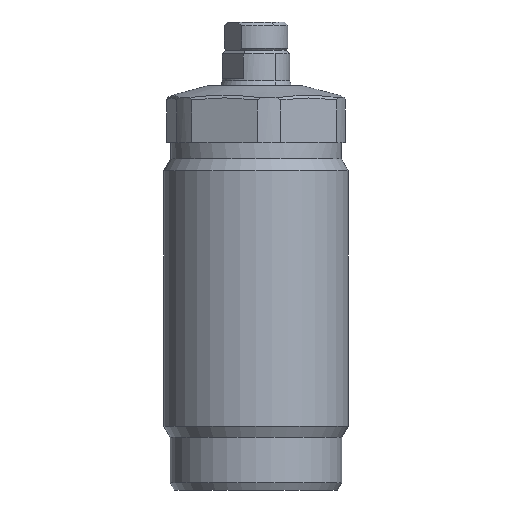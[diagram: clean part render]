
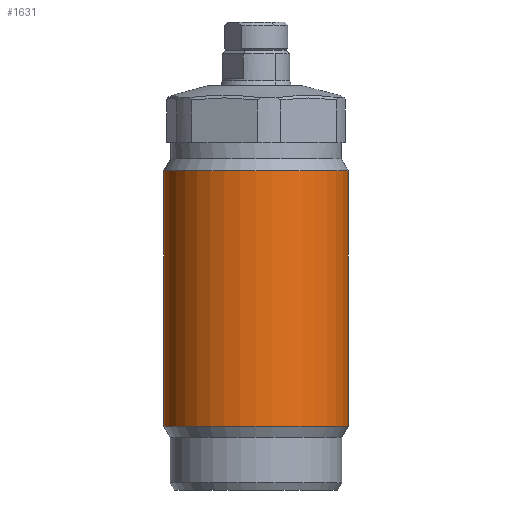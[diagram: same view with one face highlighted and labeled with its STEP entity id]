
A CAD part, front view. The second image highlights one B-rep face of the part: STEP entity #1631.
In plain terms, the highlighted cylindrical face has radius 13 mm (diameter 26 mm), a partial arc.
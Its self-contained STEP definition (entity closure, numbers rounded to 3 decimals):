
#168 = DIRECTION ( 'NONE',  ( 0., 0., -1. ) ) ;
#185 = AXIS2_PLACEMENT_3D ( 'NONE', #3106, #945, #3163 ) ;
#193 = EDGE_CURVE ( 'NONE', #2678, #2005, #3165, .T. ) ;
#224 = CARTESIAN_POINT ( 'NONE',  ( 13., 0., 9. ) ) ;
#267 = EDGE_CURVE ( 'NONE', #2005, #521, #2025, .T. ) ;
#277 = AXIS2_PLACEMENT_3D ( 'NONE', #889, #2826, #2538 ) ;
#521 = VERTEX_POINT ( 'NONE', #2754 ) ;
#657 = CARTESIAN_POINT ( 'NONE',  ( -13., 0., 49. ) ) ;
#698 = CYLINDRICAL_SURFACE ( 'NONE', #185, 13. ) ;
#699 = AXIS2_PLACEMENT_3D ( 'NONE', #1769, #1495, #2317 ) ;
#743 = CARTESIAN_POINT ( 'NONE',  ( 13., 0., 45. ) ) ;
#786 = CARTESIAN_POINT ( 'NONE',  ( 13., 0., 49. ) ) ;
#889 = CARTESIAN_POINT ( 'NONE',  ( 0., 0., 9. ) ) ;
#906 = CIRCLE ( 'NONE', #277, 13. ) ;
#945 = DIRECTION ( 'NONE',  ( 0., 0., -1. ) ) ;
#989 = EDGE_LOOP ( 'NONE', ( #1520, #2534, #2238, #1513 ) ) ;
#1245 = FACE_OUTER_BOUND ( 'NONE', #989, .T. ) ;
#1308 = VECTOR ( 'NONE', #2191, 1000. ) ;
#1495 = DIRECTION ( 'NONE',  ( 0., 0., -1. ) ) ;
#1513 = ORIENTED_EDGE ( 'NONE', *, *, #3298, .T. ) ;
#1520 = ORIENTED_EDGE ( 'NONE', *, *, #3024, .F. ) ;
#1631 = ADVANCED_FACE ( 'NONE', ( #1245 ), #698, .T. ) ;
#1654 = LINE ( 'NONE', #786, #1308 ) ;
#1769 = CARTESIAN_POINT ( 'NONE',  ( 0., 0., 45. ) ) ;
#2005 = VERTEX_POINT ( 'NONE', #3539 ) ;
#2017 = VERTEX_POINT ( 'NONE', #224 ) ;
#2025 = LINE ( 'NONE', #657, #2535 ) ;
#2191 = DIRECTION ( 'NONE',  ( 0., 0., -1. ) ) ;
#2238 = ORIENTED_EDGE ( 'NONE', *, *, #267, .T. ) ;
#2317 = DIRECTION ( 'NONE',  ( 1., 0., 0. ) ) ;
#2534 = ORIENTED_EDGE ( 'NONE', *, *, #193, .T. ) ;
#2535 = VECTOR ( 'NONE', #168, 1000. ) ;
#2538 = DIRECTION ( 'NONE',  ( -1., 0., 0. ) ) ;
#2678 = VERTEX_POINT ( 'NONE', #743 ) ;
#2754 = CARTESIAN_POINT ( 'NONE',  ( -13., 0., 9. ) ) ;
#2826 = DIRECTION ( 'NONE',  ( 0., 0., 1. ) ) ;
#3024 = EDGE_CURVE ( 'NONE', #2678, #2017, #1654, .T. ) ;
#3106 = CARTESIAN_POINT ( 'NONE',  ( 0., 0., 49. ) ) ;
#3163 = DIRECTION ( 'NONE',  ( -1., 0., 0. ) ) ;
#3165 = CIRCLE ( 'NONE', #699, 13. ) ;
#3298 = EDGE_CURVE ( 'NONE', #521, #2017, #906, .T. ) ;
#3539 = CARTESIAN_POINT ( 'NONE',  ( -13., 0., 45. ) ) ;
